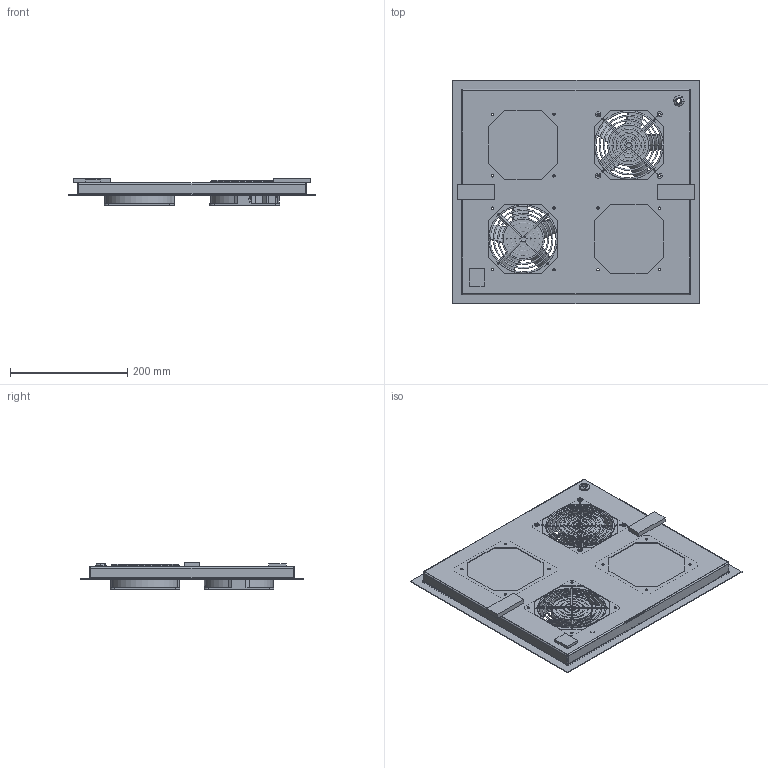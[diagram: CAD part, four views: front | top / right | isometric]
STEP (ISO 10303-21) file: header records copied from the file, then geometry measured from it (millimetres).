
FILE_DESCRIPTION (( 'STEP AP203' ), '1' );
FILE_NAME ('FC 02.230 P Ïàíåëü âåíòèëÿòîðíàÿ.STEP', '2013-01-15T13:12:41', ( 'Àëåêñàíäð' ), ( 'Ïðîâåíòî' ), 'SwSTEP 2.0', 'SolidWorks 2012', '' );
FILE_SCHEMA (( 'CONFIG_CONTROL_DESIGN' ));
Length unit declared in the file: millimetre
Products named in the file (3): FC 02.230 P Ïàíåëü âåíòèëÿòîðíàÿ; Ðåøåòêà äëÿ âåíòèëÿòîðà 120ìì; FC 02.230 P Ïàíåëü âåíòèëÿòîðíàÿ-1
Assembly tree (3 placements, depth 2):
  FC 02.230 P Ïàíåëü âåíòèëÿòîðíàÿ
    FC 02.230 P Ïàíåëü âåíòèëÿòîðíàÿ-1
    Ðåøåòêà äëÿ âåíòèëÿòîðà 120ìì  x2
Bounding box: 420 x 380 x 47.7 mm (x, y, z)
Volume: 618681.9 mm3; surface area: 526232.8 mm2
Topology: 12 solids, 12 shells, 1061 faces, 2720 edges, 1672 vertices
Faces by surface type: plane 475, cylinder 294, torus 222, bspline 48, cone 14, sphere 8
Entity records: 33307 total; most frequent: CARTESIAN_POINT 10259, DIRECTION 4720, ORIENTED_EDGE 4672, EDGE_CURVE 2336, AXIS2_PLACEMENT_3D 1725, VERTEX_POINT 1456, VECTOR 1270, LINE 1270
